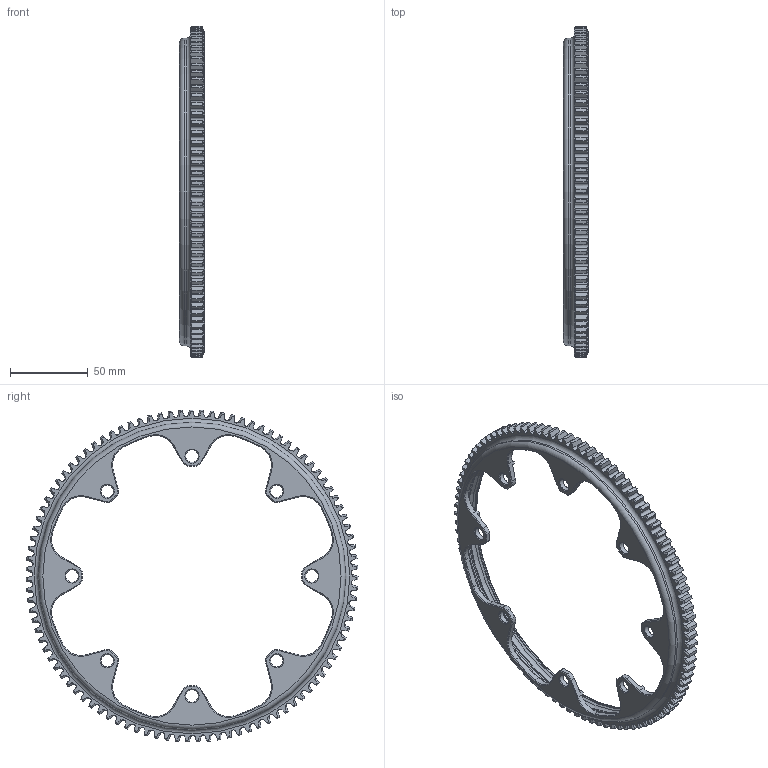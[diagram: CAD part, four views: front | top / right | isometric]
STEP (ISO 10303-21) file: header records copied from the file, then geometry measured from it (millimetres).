
FILE_DESCRIPTION(/* description */ ('Unknown'),/* implementation_level */ '2;1');
FILE_NAME(/* name */ '51-099-4',/* time_stamp */ '2022-05-03T11:55:07-07:00',/* author */ ('Unknown'),/* organization */ ('Unknown'),/* preprocessor_version */ 'ST-DEVELOPER v16.7',/* originating_system */ 'DEX',/* authorisation */ $);
FILE_SCHEMA (('AUTOMOTIVE_DESIGN {1 0 10303 214 3 1 1}'));
Length unit declared in the file: millimetre
Products named in the file (1): 7222
Bounding box: 16.1 x 213.81 x 213.8 mm (x, y, z)
Volume: 83746 mm3; surface area: 45165.1 mm2
Topology: 1 solids, 1 shells, 1214 faces, 3559 edges, 2348 vertices
Faces by surface type: plane 554, cylinder 364, cone 272, torus 24
Full cylindrical faces by diameter (mm): 8.026 x8, 190.5 x2, 198.12 x1
Entity records: 41500 total; most frequent: CARTESIAN_POINT 10082, ORIENTED_EDGE 7040, DIRECTION 6183, EDGE_CURVE 3520, AXIS2_PLACEMENT_3D 2352, VERTEX_POINT 2338, LINE 1479, VECTOR 1479
